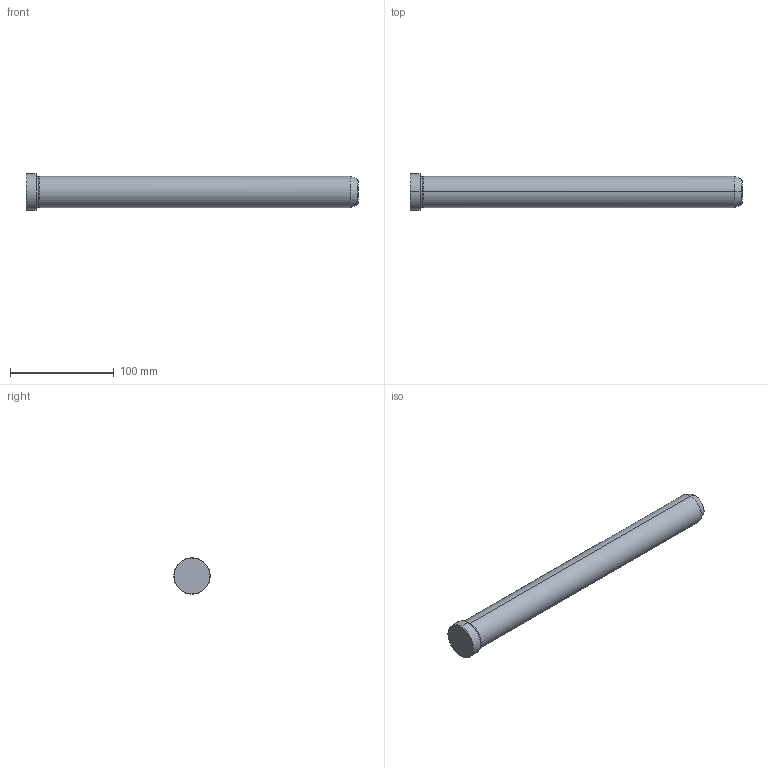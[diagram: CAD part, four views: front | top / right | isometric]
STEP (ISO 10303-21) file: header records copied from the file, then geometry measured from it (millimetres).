
FILE_DESCRIPTION(('CATIA V5 STEP Exchange'),'2;1');
FILE_NAME('C:\Users\Utente\Desktop\IO LAVORO\3D X SITO CF\X SITO\PLASTICA\549\549-30X320.stp','2021-12-17T14:28:22+00:00',('none'),('none'),'CATIA Version 5 Release 20 GA (IN-10)','CATIA V5 STEP AP203','none');
FILE_SCHEMA(('CONFIG_CONTROL_DESIGN'));
Length unit declared in the file: millimetre
Products named in the file (1): 549-30X320
Bounding box: 320 x 35 x 35 mm (x, y, z)
Volume: 227744.1 mm3; surface area: 31983.5 mm2
Topology: 1 solids, 1 shells, 19 faces, 56 edges, 40 vertices
Faces by surface type: cone 8, cylinder 6, plane 3, torus 2
Entity records: 736 total; most frequent: CARTESIAN_POINT 192, ORIENTED_EDGE 112, DIRECTION 86, EDGE_CURVE 56, AXIS2_PLACEMENT_3D 54, VERTEX_POINT 40, CIRCLE 34, EDGE_LOOP 20
